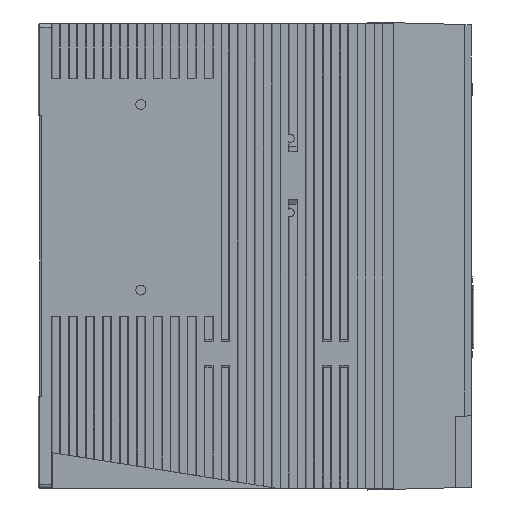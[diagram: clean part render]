
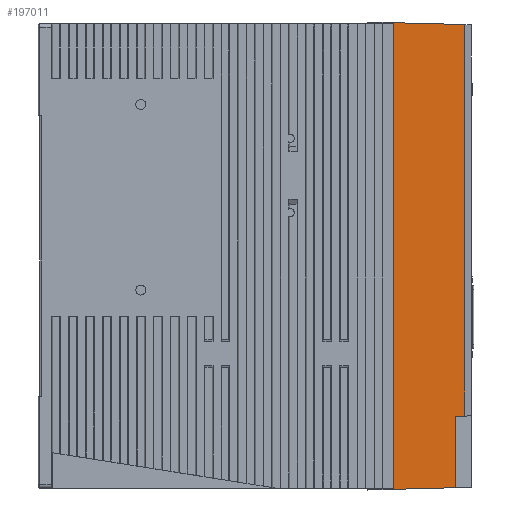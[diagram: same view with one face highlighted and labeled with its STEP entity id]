
A CAD part, left-side view. The second image highlights one B-rep face of the part: STEP entity #197011.
In plain terms, the highlighted planar face has unit normal (-1, -0.026, 0) as drawn and (0, -0.026, 1) by its records, which use the part's own axes.
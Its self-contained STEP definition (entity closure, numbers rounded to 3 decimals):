
#9255 = VECTOR ( 'NONE', #171251, 1000. ) ;
#10605 = LINE ( 'NONE', #193367, #131745 ) ;
#11784 = LINE ( 'NONE', #76357, #167068 ) ;
#13779 = DIRECTION ( 'NONE',  ( 0., -1., -0.026 ) ) ;
#39091 = LINE ( 'NONE', #172395, #148081 ) ;
#40044 = LINE ( 'NONE', #56194, #9255 ) ;
#42512 = CARTESIAN_POINT ( 'NONE',  ( -75.405, 25., 27.905 ) ) ;
#43434 = EDGE_LOOP ( 'NONE', ( #96853, #194812, #113384, #136387, #166217, #196111 ) ) ;
#48149 = FACE_OUTER_BOUND ( 'NONE', #43434, .T. ) ;
#48161 = DIRECTION ( 'NONE',  ( 1., 0., 0. ) ) ;
#56194 = CARTESIAN_POINT ( 'NONE',  ( -74.881, 5., 27.381 ) ) ;
#59016 = VERTEX_POINT ( 'NONE', #141072 ) ;
#62510 = LINE ( 'NONE', #109849, #193884 ) ;
#71036 = VERTEX_POINT ( 'NONE', #202135 ) ;
#75305 = CARTESIAN_POINT ( 'NONE',  ( -51.721, 2.036, 27.303 ) ) ;
#76357 = CARTESIAN_POINT ( 'NONE',  ( 0., 25., 27.905 ) ) ;
#80220 = CARTESIAN_POINT ( 'NONE',  ( 75.405, 25., 27.905 ) ) ;
#83244 = DIRECTION ( 'NONE',  ( 1., 0., 0. ) ) ;
#92701 = VERTEX_POINT ( 'NONE', #75305 ) ;
#93383 = EDGE_CURVE ( 'NONE', #92701, #59016, #39091, .T. ) ;
#96853 = ORIENTED_EDGE ( 'NONE', *, *, #188824, .F. ) ;
#101456 = LINE ( 'NONE', #184237, #114287 ) ;
#103647 = DIRECTION ( 'NONE',  ( -0.026, 0.999, 0.026 ) ) ;
#109849 = CARTESIAN_POINT ( 'NONE',  ( 74.803, 2.036, 27.303 ) ) ;
#111757 = DIRECTION ( 'NONE',  ( 1., 0., 0. ) ) ;
#113384 = ORIENTED_EDGE ( 'NONE', *, *, #93383, .F. ) ;
#114287 = VECTOR ( 'NONE', #83244, 1000. ) ;
#114420 = VERTEX_POINT ( 'NONE', #80220 ) ;
#120007 = EDGE_CURVE ( 'NONE', #199116, #59016, #101456, .T. ) ;
#124567 = VERTEX_POINT ( 'NONE', #42512 ) ;
#130964 = PLANE ( 'NONE',  #151730 ) ;
#131745 = VECTOR ( 'NONE', #48161, 1000. ) ;
#136387 = ORIENTED_EDGE ( 'NONE', *, *, #180010, .T. ) ;
#141072 = CARTESIAN_POINT ( 'NONE',  ( -51.798, 5., 27.381 ) ) ;
#147060 = DIRECTION ( 'NONE',  ( 0., -0.026, 1. ) ) ;
#148081 = VECTOR ( 'NONE', #103647, 1000. ) ;
#148678 = EDGE_CURVE ( 'NONE', #124567, #114420, #11784, .T. ) ;
#151730 = AXIS2_PLACEMENT_3D ( 'NONE', #161092, #147060, #13779 ) ;
#161092 = CARTESIAN_POINT ( 'NONE',  ( 0., 0., 27.25 ) ) ;
#162482 = CARTESIAN_POINT ( 'NONE',  ( -74.881, 5., 27.381 ) ) ;
#166217 = ORIENTED_EDGE ( 'NONE', *, *, #209296, .T. ) ;
#167068 = VECTOR ( 'NONE', #111757, 1000. ) ;
#171251 = DIRECTION ( 'NONE',  ( -0.026, 0.999, 0.026 ) ) ;
#172395 = CARTESIAN_POINT ( 'NONE',  ( -51.721, 2.036, 27.303 ) ) ;
#177520 = DIRECTION ( 'NONE',  ( 0.026, 0.999, 0.026 ) ) ;
#180010 = EDGE_CURVE ( 'NONE', #92701, #71036, #10605, .T. ) ;
#184237 = CARTESIAN_POINT ( 'NONE',  ( 0., 5., 27.381 ) ) ;
#188824 = EDGE_CURVE ( 'NONE', #199116, #124567, #40044, .T. ) ;
#193367 = CARTESIAN_POINT ( 'NONE',  ( -74.75, 2.036, 27.303 ) ) ;
#193884 = VECTOR ( 'NONE', #177520, 1000. ) ;
#194812 = ORIENTED_EDGE ( 'NONE', *, *, #120007, .T. ) ;
#196111 = ORIENTED_EDGE ( 'NONE', *, *, #148678, .F. ) ;
#197011 = ADVANCED_FACE ( 'NONE', ( #48149 ), #130964, .T. ) ;
#199116 = VERTEX_POINT ( 'NONE', #162482 ) ;
#202135 = CARTESIAN_POINT ( 'NONE',  ( 74.803, 2.036, 27.303 ) ) ;
#209296 = EDGE_CURVE ( 'NONE', #71036, #114420, #62510, .T. ) ;
